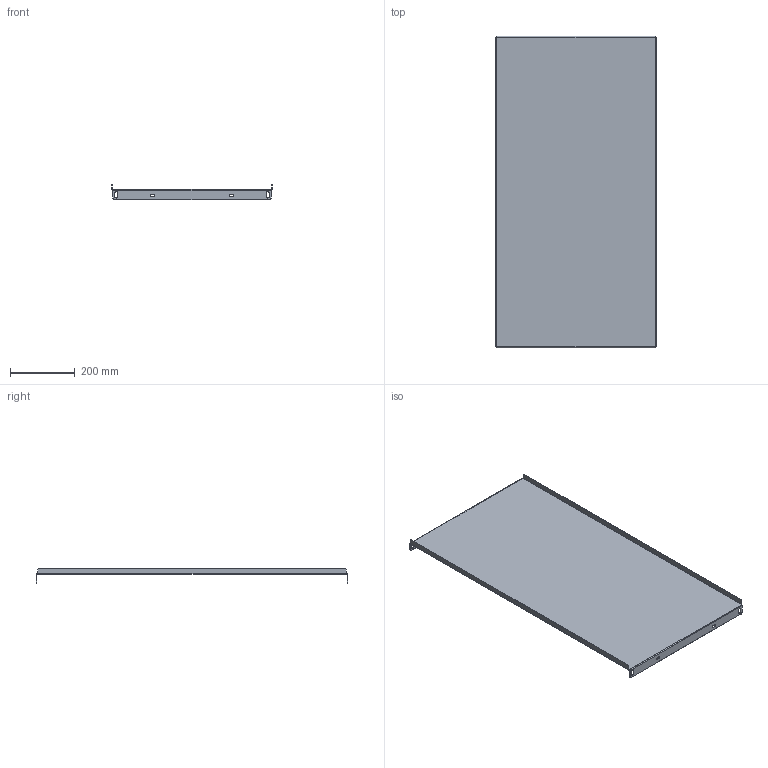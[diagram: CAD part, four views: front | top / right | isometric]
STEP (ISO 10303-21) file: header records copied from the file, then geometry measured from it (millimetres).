
FILE_DESCRIPTION (( 'STEP AP203' ), '1' );
FILE_NAME ('EUPU-060100.STEP', '2015-04-22T09:27:19', ( 'Admin' ), ( '' ), 'SwSTEP 2.0', 'SolidWorks 2014', '' );
FILE_SCHEMA (( 'CONFIG_CONTROL_DESIGN' ));
Length unit declared in the file: millimetre
Products named in the file (1): EUPU-060100
Bounding box: 498 x 965 x 47.5 mm (x, y, z)
Volume: 1059279.3 mm3; surface area: 1080330.3 mm2
Topology: 1 solids, 1 shells, 82 faces, 240 edges, 160 vertices
Faces by surface type: plane 46, cylinder 36
Entity records: 2845 total; most frequent: CARTESIAN_POINT 483, ORIENTED_EDGE 480, DIRECTION 478, EDGE_CURVE 240, LINE 168, VECTOR 168, VERTEX_POINT 160, AXIS2_PLACEMENT_3D 155
